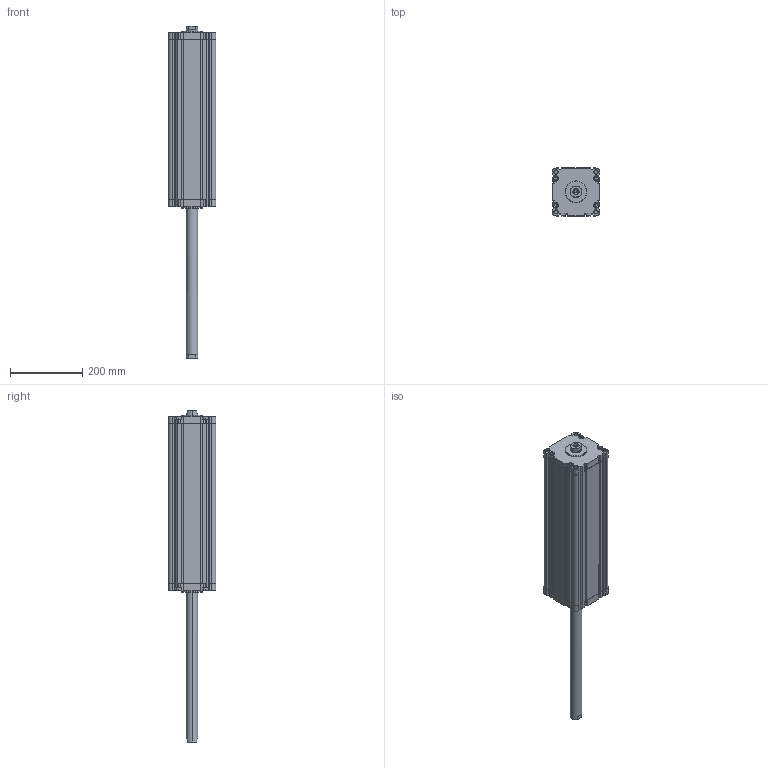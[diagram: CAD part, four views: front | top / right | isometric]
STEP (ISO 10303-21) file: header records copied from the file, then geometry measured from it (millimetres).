
FILE_DESCRIPTION (( 'STEP AP203' ), '1' );
FILE_NAME ('CDVU125-400F-P.STEP', '2020-07-24T18:46:30', ( '' ), ( '' ), 'SwSTEP 2.0', 'SolidWorks 2019', '' );
FILE_SCHEMA (( 'CONFIG_CONTROL_DESIGN' ));
Length unit declared in the file: millimetre
Products named in the file (1): CDVU125-400F-P
Bounding box: 132 x 132 x 917 mm (x, y, z)
Volume: 3881608.9 mm3; surface area: 649421.8 mm2
Topology: 2 solids, 2 shells, 666 faces, 1816 edges, 1184 vertices
Faces by surface type: plane 322, cylinder 276, cone 52, torus 16
Entity records: 21155 total; most frequent: DIRECTION 3778, CARTESIAN_POINT 3659, ORIENTED_EDGE 3616, EDGE_CURVE 1808, AXIS2_PLACEMENT_3D 1303, VERTEX_POINT 1184, VECTOR 1172, LINE 1172
